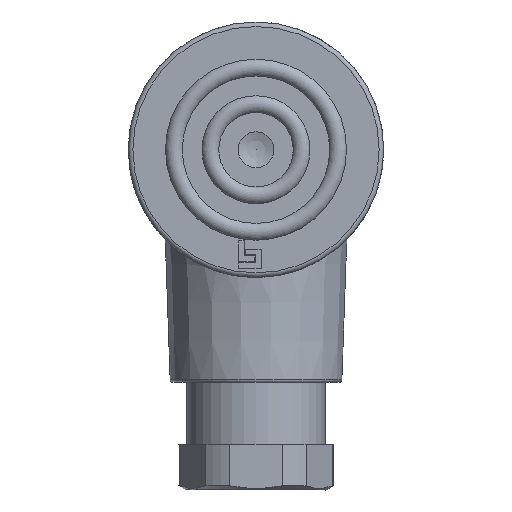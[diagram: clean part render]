
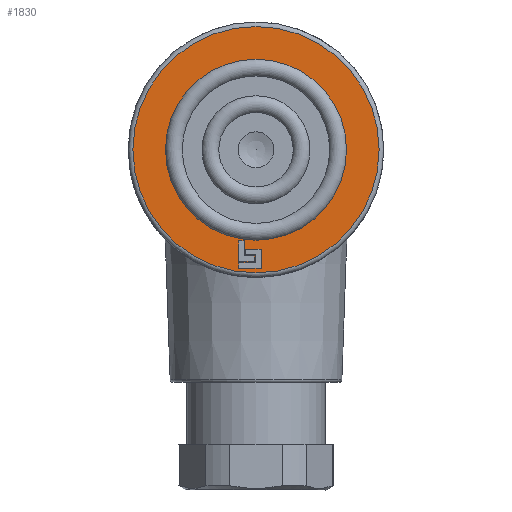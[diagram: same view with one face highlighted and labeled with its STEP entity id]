
A CAD part, left-side view. The second image highlights one B-rep face of the part: STEP entity #1830.
In plain terms, the highlighted planar face has unit normal (-1, 0, 0) by its records, which use the part's own axes.
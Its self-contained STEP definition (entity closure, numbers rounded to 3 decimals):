
#194=FACE_BOUND('',#2871,.T.);
#195=FACE_BOUND('',#2872,.T.);
#196=FACE_BOUND('',#2873,.T.);
#197=FACE_BOUND('',#2874,.T.);
#629=LINE('',#10770,#1088);
#632=LINE('',#10776,#1091);
#634=LINE('',#10780,#1093);
#636=LINE('',#10784,#1095);
#638=LINE('',#10788,#1097);
#640=LINE('',#10792,#1099);
#642=LINE('',#10796,#1101);
#644=LINE('',#10800,#1103);
#646=LINE('',#10804,#1105);
#648=LINE('',#10808,#1107);
#650=LINE('',#10812,#1109);
#652=LINE('',#10816,#1111);
#654=LINE('',#10820,#1113);
#656=LINE('',#10824,#1115);
#1088=VECTOR('',#8280,1.);
#1091=VECTOR('',#8285,1.);
#1093=VECTOR('',#8289,1.);
#1095=VECTOR('',#8293,1.);
#1097=VECTOR('',#8297,1.);
#1099=VECTOR('',#8301,1.);
#1101=VECTOR('',#8305,1.);
#1103=VECTOR('',#8309,1.);
#1105=VECTOR('',#8313,1.);
#1107=VECTOR('',#8317,1.);
#1109=VECTOR('',#8321,1.);
#1111=VECTOR('',#8325,1.);
#1113=VECTOR('',#8329,1.);
#1115=VECTOR('',#8333,1.);
#1830=ADVANCED_FACE('',(#194,#195,#196,#197),#2089,.T.);
#2089=PLANE('',#6757);
#2871=EDGE_LOOP('',(#4513));
#2872=EDGE_LOOP('',(#4514));
#2873=EDGE_LOOP('',(#4515,#4516,#4517,#4518,#4519,#4520));
#2874=EDGE_LOOP('',(#4521,#4522,#4523,#4524,#4525,#4526,#4527,#4528));
#4513=ORIENTED_EDGE('',*,*,#5965,.T.);
#4514=ORIENTED_EDGE('',*,*,#5966,.T.);
#4515=ORIENTED_EDGE('',*,*,#5964,.F.);
#4516=ORIENTED_EDGE('',*,*,#5962,.F.);
#4517=ORIENTED_EDGE('',*,*,#5960,.F.);
#4518=ORIENTED_EDGE('',*,*,#5958,.F.);
#4519=ORIENTED_EDGE('',*,*,#5956,.F.);
#4520=ORIENTED_EDGE('',*,*,#5954,.F.);
#4521=ORIENTED_EDGE('',*,*,#5952,.T.);
#4522=ORIENTED_EDGE('',*,*,#5950,.T.);
#4523=ORIENTED_EDGE('',*,*,#5948,.T.);
#4524=ORIENTED_EDGE('',*,*,#5946,.T.);
#4525=ORIENTED_EDGE('',*,*,#5944,.T.);
#4526=ORIENTED_EDGE('',*,*,#5942,.T.);
#4527=ORIENTED_EDGE('',*,*,#5940,.T.);
#4528=ORIENTED_EDGE('',*,*,#5937,.T.);
#5105=VERTEX_POINT('',#10771);
#5106=VERTEX_POINT('',#10772);
#5107=VERTEX_POINT('',#10777);
#5108=VERTEX_POINT('',#10781);
#5109=VERTEX_POINT('',#10785);
#5110=VERTEX_POINT('',#10789);
#5111=VERTEX_POINT('',#10793);
#5112=VERTEX_POINT('',#10797);
#5113=VERTEX_POINT('',#10803);
#5114=VERTEX_POINT('',#10805);
#5115=VERTEX_POINT('',#10809);
#5116=VERTEX_POINT('',#10813);
#5117=VERTEX_POINT('',#10817);
#5118=VERTEX_POINT('',#10821);
#5119=VERTEX_POINT('',#10827);
#5120=VERTEX_POINT('',#10830);
#5937=EDGE_CURVE('',#5105,#5106,#629,.T.);
#5940=EDGE_CURVE('',#5107,#5105,#632,.T.);
#5942=EDGE_CURVE('',#5108,#5107,#634,.T.);
#5944=EDGE_CURVE('',#5109,#5108,#636,.T.);
#5946=EDGE_CURVE('',#5110,#5109,#638,.T.);
#5948=EDGE_CURVE('',#5111,#5110,#640,.T.);
#5950=EDGE_CURVE('',#5112,#5111,#642,.T.);
#5952=EDGE_CURVE('',#5106,#5112,#644,.T.);
#5954=EDGE_CURVE('',#5113,#5114,#646,.T.);
#5956=EDGE_CURVE('',#5114,#5115,#648,.T.);
#5958=EDGE_CURVE('',#5115,#5116,#650,.T.);
#5960=EDGE_CURVE('',#5116,#5117,#652,.T.);
#5962=EDGE_CURVE('',#5117,#5118,#654,.T.);
#5964=EDGE_CURVE('',#5118,#5113,#656,.T.);
#5965=EDGE_CURVE('',#5119,#5119,#6185,.T.);
#5966=EDGE_CURVE('',#5120,#5120,#6186,.T.);
#6185=CIRCLE('',#6754,9.917);
#6186=CIRCLE('',#6756,13.5);
#6754=AXIS2_PLACEMENT_3D('',#10826,#8336,#8337);
#6756=AXIS2_PLACEMENT_3D('',#10829,#8340,#8341);
#6757=AXIS2_PLACEMENT_3D('',#10831,#8342,#8343);
#8280=DIRECTION('',(0.,1.,0.));
#8285=DIRECTION('',(0.,0.,1.));
#8289=DIRECTION('',(0.,-1.,0.));
#8293=DIRECTION('',(0.,0.,1.));
#8297=DIRECTION('',(0.,1.,0.));
#8301=DIRECTION('',(0.,0.,-1.));
#8305=DIRECTION('',(0.,-1.,0.));
#8309=DIRECTION('',(0.,0.,1.));
#8313=DIRECTION('',(0.,1.,0.));
#8317=DIRECTION('',(0.,0.,1.));
#8321=DIRECTION('',(0.,1.,0.));
#8325=DIRECTION('',(0.,0.,-1.));
#8329=DIRECTION('',(0.,-1.,0.));
#8333=DIRECTION('',(0.,0.,1.));
#8336=DIRECTION('',(1.,0.,0.));
#8337=DIRECTION('',(0.,1.,0.));
#8340=DIRECTION('',(-1.,0.,0.));
#8341=DIRECTION('',(0.,1.,0.));
#8342=DIRECTION('',(-1.,0.,0.));
#8343=DIRECTION('',(0.,1.,0.));
#10770=CARTESIAN_POINT('',(-60.15,0.,-11.5));
#10771=CARTESIAN_POINT('',(-60.15,0.04,-11.5));
#10772=CARTESIAN_POINT('',(-60.15,1.15,-11.5));
#10776=CARTESIAN_POINT('',(-60.15,0.04,0.));
#10777=CARTESIAN_POINT('',(-60.15,0.04,-12.4));
#10780=CARTESIAN_POINT('',(-60.15,0.,-12.4));
#10781=CARTESIAN_POINT('',(-60.15,1.9,-12.4));
#10784=CARTESIAN_POINT('',(-60.15,1.9,0.));
#10785=CARTESIAN_POINT('',(-60.15,1.9,-13.));
#10788=CARTESIAN_POINT('',(-60.15,0.,-13.));
#10789=CARTESIAN_POINT('',(-60.15,-0.56,-13.));
#10792=CARTESIAN_POINT('',(-60.15,-0.56,0.));
#10793=CARTESIAN_POINT('',(-60.15,-0.56,-10.9));
#10796=CARTESIAN_POINT('',(-60.15,0.,-10.9));
#10797=CARTESIAN_POINT('',(-60.15,1.15,-10.9));
#10800=CARTESIAN_POINT('',(-60.15,1.15,0.));
#10803=CARTESIAN_POINT('',(-60.15,0.19,-11.65));
#10804=CARTESIAN_POINT('',(-60.15,0.,-11.65));
#10805=CARTESIAN_POINT('',(-60.15,1.3,-11.65));
#10808=CARTESIAN_POINT('',(-60.15,1.3,0.));
#10809=CARTESIAN_POINT('',(-60.15,1.3,-10.));
#10812=CARTESIAN_POINT('',(-60.15,0.,-10.));
#10813=CARTESIAN_POINT('',(-60.15,1.9,-10.));
#10816=CARTESIAN_POINT('',(-60.15,1.9,0.));
#10817=CARTESIAN_POINT('',(-60.15,1.9,-12.25));
#10820=CARTESIAN_POINT('',(-60.15,0.,-12.25));
#10821=CARTESIAN_POINT('',(-60.15,0.19,-12.25));
#10824=CARTESIAN_POINT('',(-60.15,0.19,0.));
#10826=CARTESIAN_POINT('',(-60.15,0.,0.));
#10827=CARTESIAN_POINT('',(-60.15,9.917,0.));
#10829=CARTESIAN_POINT('',(-60.15,0.,0.));
#10830=CARTESIAN_POINT('',(-60.15,13.5,0.));
#10831=CARTESIAN_POINT('',(-60.15,0.,0.));
